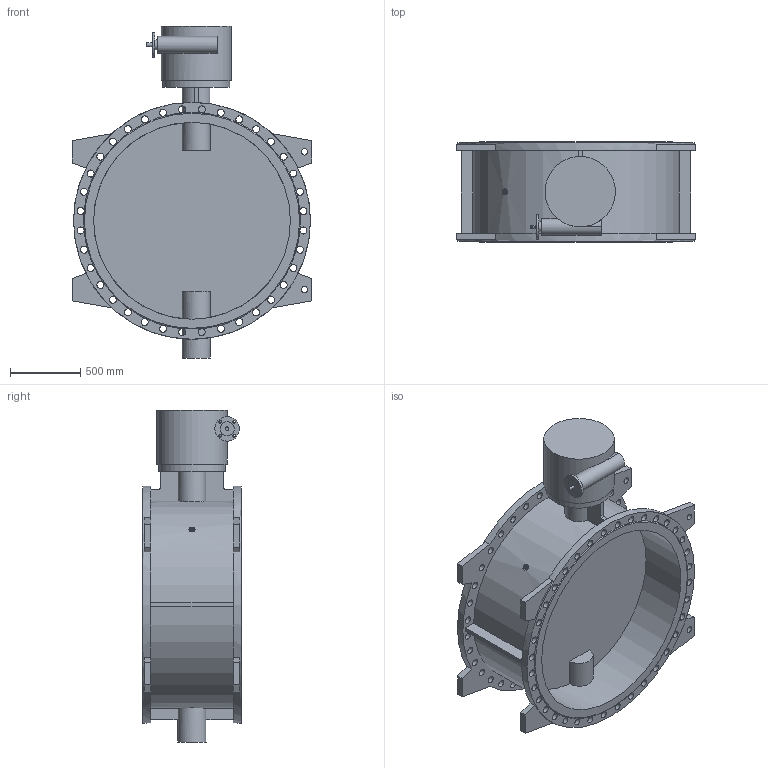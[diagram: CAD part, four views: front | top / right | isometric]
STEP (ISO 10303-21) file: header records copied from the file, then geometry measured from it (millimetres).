
FILE_DESCRIPTION(('STEP AP203'), '1');
FILE_NAME('Çàòâîð 023F.Z DN1400 PN16_ð-ð_ôë', '', ('UNSPECIFIED'), ('UNSPECIFIED'), 'ASCON STEP Converter 1.6', 'ASCON Math Kernel', '');
FILE_SCHEMA(('CONFIG_CONTROL_DESIGN'));
Length unit declared in the file: millimetre
Bounding box: 1700 x 710 x 2361 mm (x, y, z)
Volume: 452308180.6 mm3; surface area: 14400127.4 mm2
Topology: 1 solids, 1 shells, 235 faces, 744 edges, 470 vertices
Faces by surface type: cylinder 126, plane 107, cone 2
Full cylindrical faces by diameter (mm): 18 x4, 24 x1, 33 x8, 39 x8, 45 x4, 50 x72, 70 x1, 100 x1, 120 x1, 175 x1, 200 x1, 475 x1, 500 x1, 1400 x2, 1685 x2
Entity records: 11174 total; most frequent: CARTESIAN_POINT 2403, DIRECTION 1493, ORIENTED_EDGE 1260, AXIS2_PLACEMENT_3D 647, EDGE_CURVE 630, EDGE_LOOP 533, VERTEX_POINT 469, CIRCLE 412
